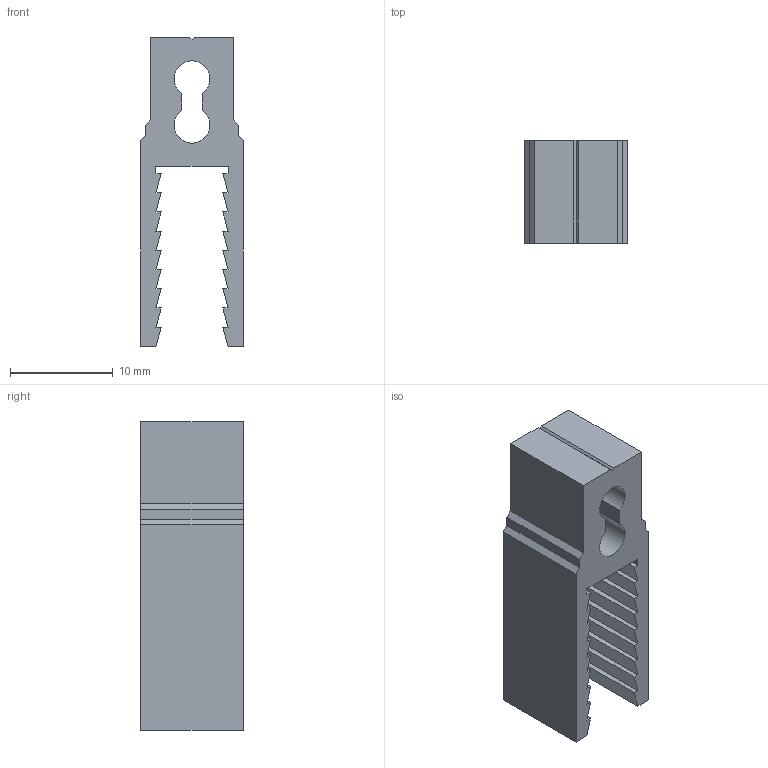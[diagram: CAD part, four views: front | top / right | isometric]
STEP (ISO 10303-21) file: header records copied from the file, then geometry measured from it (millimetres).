
FILE_DESCRIPTION((''),'2;1');
FILE_NAME('PR010030G','2002-12-27T',('Lipro doo'),('Lipro d.o.o.'),'PRO/ENGINEER BY PARAMETRIC TECHNOLOGY CORPORATION, 2001150','PRO/ENGINEER BY PARAMETRIC TECHNOLOGY CORPORATION, 2001150','');
FILE_SCHEMA(('CONFIG_CONTROL_DESIGN'));
Length unit declared in the file: millimetre
Products named in the file (1): PR010030G
Bounding box: 10 x 10 x 30 mm (x, y, z)
Volume: 1462.1 mm3; surface area: 1744.1 mm2
Topology: 1 solids, 1 shells, 61 faces, 177 edges, 118 vertices
Faces by surface type: plane 59, cylinder 2
Entity records: 2017 total; most frequent: CARTESIAN_POINT 356, ORIENTED_EDGE 354, DIRECTION 303, EDGE_CURVE 177, VECTOR 173, LINE 173, VERTEX_POINT 118, AXIS2_PLACEMENT_3D 65
